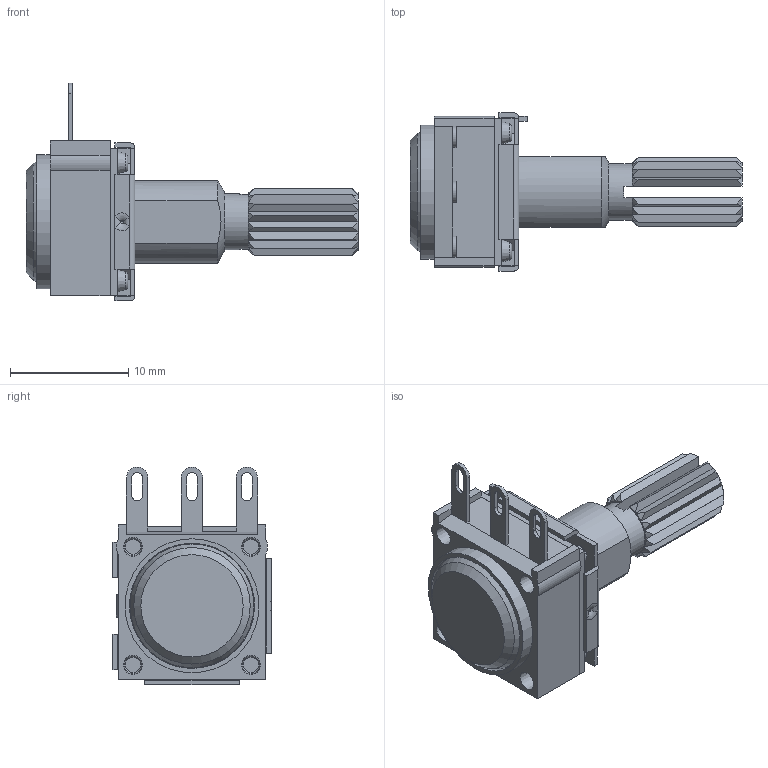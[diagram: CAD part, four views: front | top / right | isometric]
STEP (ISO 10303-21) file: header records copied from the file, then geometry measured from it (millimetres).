
FILE_DESCRIPTION(/* description */ (''),/* implementation_level */ '2;1');
FILE_NAME(/* name */ 'P11S1QAFHKY00103MA',/* time_stamp */ '2021-09-15T16:15:50+02:00',/* author */ ('MEB'),/* organization */ ('VISHAY '),/* preprocessor_version */ 'ST-DEVELOPER v16.7',/* originating_system */ 'DEX',/* authorisation */ $);
FILE_SCHEMA (('AUTOMOTIVE_DESIGN {1 0 10303 214 3 1 1}'));
Length unit declared in the file: millimetre
Products named in the file (8): P11S1QAFHKY00103MA; 3646193; 3652060; M1-Y00-103_oa_0; 3650993; bande à chas; 3650540; ergot_A_9H
Assembly tree (7 placements, depth 3):
  P11S1QAFHKY00103MA
    3646193
    3652060
    M1-Y00-103_oa_0
      3650993
      bande à chas
    3650540
    ergot_A_9H
Bounding box: 28.12 x 13.4 x 18.45 mm (x, y, z)
Volume: 1122.7 mm3; surface area: 2641 mm2
Topology: 8 solids, 8 shells, 415 faces, 1101 edges, 721 vertices
Faces by surface type: plane 248, cylinder 90, cone 55, torus 12, bspline 10
Full cylindrical faces by diameter (mm): 1.3 x4, 1.5 x8, 1.55 x4, 2.55 x1, 2.6 x1, 2.66 x1, 4.1 x1, 4.75 x1, 6.4 x1, 7.42 x1, 8.4 x1, 9.65 x1, 10.2 x1, 10.4 x1, 10.6 x1, 11.35 x1
Entity records: 13100 total; most frequent: CARTESIAN_POINT 2604, ORIENTED_EDGE 2030, DIRECTION 2013, EDGE_CURVE 1015, AXIS2_PLACEMENT_3D 699, VERTEX_POINT 694, LINE 615, VECTOR 615
